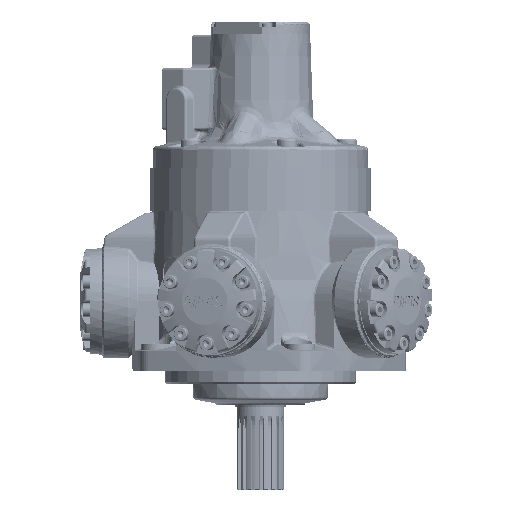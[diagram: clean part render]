
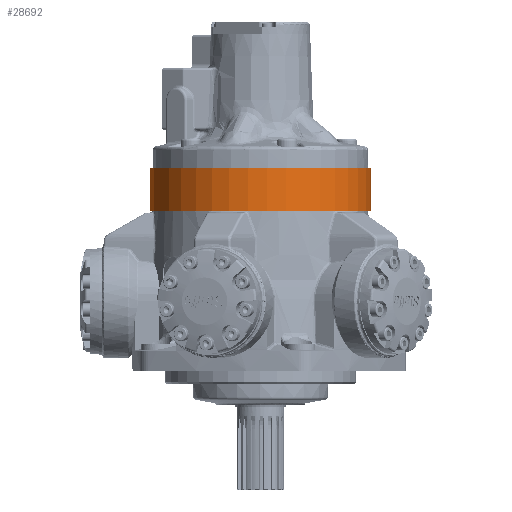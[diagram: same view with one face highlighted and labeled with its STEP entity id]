
A CAD part, left-side view. The second image highlights one B-rep face of the part: STEP entity #28692.
In plain terms, the highlighted cylindrical face has radius 130.175 mm (diameter 260.35 mm), a partial arc.
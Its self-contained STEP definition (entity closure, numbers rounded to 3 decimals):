
#27241=CARTESIAN_POINT('',(67.652,-111.215,157.81));
#27242=VERTEX_POINT('',#27241);
#27324=CARTESIAN_POINT('',(126.677,-29.973,157.81));
#27325=VERTEX_POINT('',#27324);
#27333=CARTESIAN_POINT('',(0.,0.,157.81));
#27334=DIRECTION('',(0.,0.,-1.));
#27335=DIRECTION('',(-0.809,0.588,0.));
#27336=AXIS2_PLACEMENT_3D('',#27333,#27334,#27335);
#27337=CIRCLE('',#27336,130.175);
#27338=EDGE_CURVE('',#27242,#27325,#27337,.T.);
#27399=CARTESIAN_POINT('',(67.652,-111.215,107.01));
#27400=VERTEX_POINT('',#27399);
#27401=CARTESIAN_POINT('',(126.677,-29.973,107.01));
#27402=VERTEX_POINT('',#27401);
#27403=CARTESIAN_POINT('',(0.,0.,107.01));
#27404=DIRECTION('',(0.,0.,-1.));
#27405=DIRECTION('',(-0.809,0.588,0.));
#27406=AXIS2_PLACEMENT_3D('',#27403,#27404,#27405);
#27407=CIRCLE('',#27406,130.175);
#27408=EDGE_CURVE('',#27400,#27402,#27407,.T.);
#28574=CARTESIAN_POINT('',(67.652,-111.215,157.81));
#28575=DIRECTION('',(0.0,0.0,-1.0));
#28576=VECTOR('',#28575,50.8);
#28577=LINE('',#28574,#28576);
#28578=EDGE_CURVE('',#27242,#27400,#28577,.T.);
#28613=CARTESIAN_POINT('',(126.677,-29.973,107.01));
#28614=DIRECTION('',(0.0,0.0,1.0));
#28615=VECTOR('',#28614,50.8);
#28616=LINE('',#28613,#28615);
#28617=EDGE_CURVE('',#27402,#27325,#28616,.T.);
#28681=CARTESIAN_POINT('',(0.,0.,132.41));
#28682=DIRECTION('',(0.,0.,-1.0));
#28683=DIRECTION('',(-0.809,0.588,0.));
#28684=AXIS2_PLACEMENT_3D('',#28681,#28682,#28683);
#28685=CYLINDRICAL_SURFACE('',#28684,130.175);
#28686=ORIENTED_EDGE('',*,*,#28578,.F.);
#28687=ORIENTED_EDGE('',*,*,#27338,.T.);
#28688=ORIENTED_EDGE('',*,*,#28617,.F.);
#28689=ORIENTED_EDGE('',*,*,#27408,.F.);
#28690=EDGE_LOOP('',(#28686,#28687,#28688,#28689));
#28691=FACE_OUTER_BOUND('',#28690,.T.);
#28692=ADVANCED_FACE('',(#28691),#28685,.T.);
